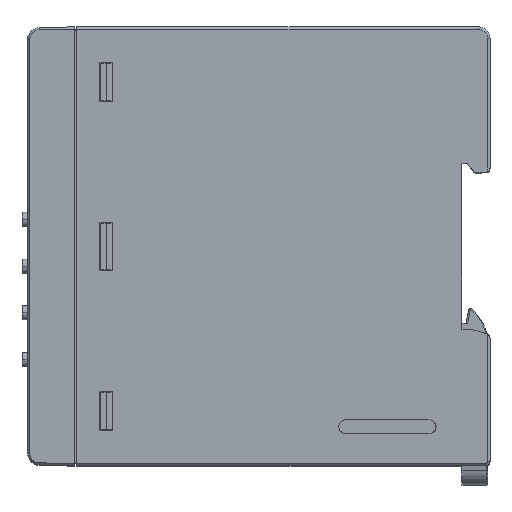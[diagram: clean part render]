
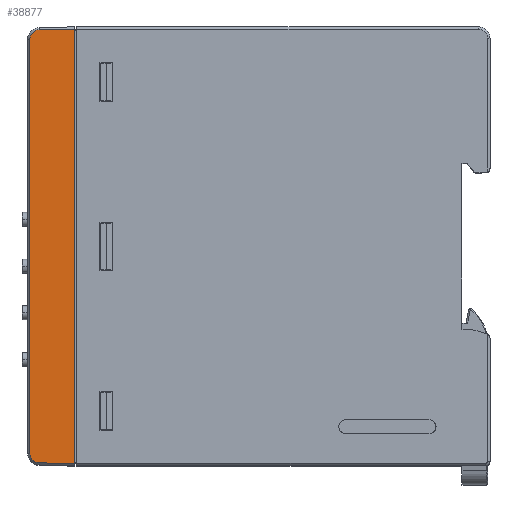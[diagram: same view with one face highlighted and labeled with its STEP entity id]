
A CAD part, top view. The second image highlights one B-rep face of the part: STEP entity #38877.
In plain terms, the highlighted planar face has unit normal (-0.018, 0, 1).
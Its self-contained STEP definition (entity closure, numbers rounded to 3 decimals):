
#25777=DIRECTION('',(1.,-0.017,0.017));
#25778=VECTOR('',#25777,7.546);
#25779=CARTESIAN_POINT('',(-46.064,-46.368,
15.068));
#25780=LINE('',#25779,#25778);
#25784=CARTESIAN_POINT('',(-48.029,-44.369,
15.034));
#25785=CARTESIAN_POINT('',(-48.029,-44.541,
15.034));
#25786=CARTESIAN_POINT('',(-47.984,-44.887,
15.035));
#25787=CARTESIAN_POINT('',(-47.786,-45.37,
15.038));
#25788=CARTESIAN_POINT('',(-47.471,-45.786,
15.044));
#25789=CARTESIAN_POINT('',(-47.06,-46.108,
15.051));
#25790=CARTESIAN_POINT('',(-46.58,-46.314,
15.059));
#25791=CARTESIAN_POINT('',(-46.236,-46.365,
15.065));
#25792=CARTESIAN_POINT('',(-46.064,-46.368,
15.068));
#25797=DIRECTION('',(0.,-1.,0.));
#25798=VECTOR('',#25797,88.737);
#25799=CARTESIAN_POINT('',(-48.029,44.369,
15.034));
#25800=LINE('',#25799,#25798);
#25804=CARTESIAN_POINT('',(-46.064,46.368,
15.068));
#25805=CARTESIAN_POINT('',(-46.236,46.365,
15.065));
#25806=CARTESIAN_POINT('',(-46.581,46.314,
15.059));
#25807=CARTESIAN_POINT('',(-47.061,46.108,
15.051));
#25808=CARTESIAN_POINT('',(-47.472,45.786,
15.044));
#25809=CARTESIAN_POINT('',(-47.786,45.369,
15.038));
#25810=CARTESIAN_POINT('',(-47.984,44.886,
15.035));
#25811=CARTESIAN_POINT('',(-48.029,44.541,
15.034));
#25812=CARTESIAN_POINT('',(-48.029,44.369,
15.034));
#25817=DIRECTION('',(-1.,-0.017,-0.017));
#25818=VECTOR('',#25817,7.546);
#25819=CARTESIAN_POINT('',(-38.52,46.5,15.2));
#25820=LINE('',#25819,#25818);
#25824=DIRECTION('',(0.,-1.,0.));
#25825=VECTOR('',#25824,93.);
#25826=CARTESIAN_POINT('',(-38.52,46.5,15.2));
#25827=LINE('',#25826,#25825);
#31245=CARTESIAN_POINT('',(-38.52,-46.5,15.2));
#31247=VERTEX_POINT('',#31245);
#31251=CARTESIAN_POINT('',(-46.064,-46.368,
15.068));
#31252=VERTEX_POINT('',#31251);
#31253=VERTEX_POINT('',#25784);
#31255=CARTESIAN_POINT('',(-48.029,44.369,
15.034));
#31256=VERTEX_POINT('',#31255);
#31259=VERTEX_POINT('',#25804);
#31262=CARTESIAN_POINT('',(-38.52,46.5,15.2));
#31264=VERTEX_POINT('',#31262);
#38861=CARTESIAN_POINT('',(-38.52,-48.7,15.2));
#38862=DIRECTION('',(-0.017,0.,1.));
#38863=DIRECTION('',(0.,-1.,0.));
#38864=AXIS2_PLACEMENT_3D('',#38861,#38862,#38863);
#38865=PLANE('',#38864);
#38866=ORIENTED_EDGE('',*,*,#38768,.F.);
#38868=ORIENTED_EDGE('',*,*,#38867,.F.);
#38870=ORIENTED_EDGE('',*,*,#38869,.F.);
#38872=ORIENTED_EDGE('',*,*,#38871,.F.);
#38873=ORIENTED_EDGE('',*,*,#38853,.F.);
#38874=ORIENTED_EDGE('',*,*,#38634,.T.);
#38875=EDGE_LOOP('',(#38866,#38868,#38870,#38872,#38873,#38874));
#38876=FACE_OUTER_BOUND('',#38875,.F.);
#38877=ADVANCED_FACE('',(#38876),#38865,.T.);
#25793=B_SPLINE_CURVE_WITH_KNOTS('',3,(#25784,#25785,#25786,#25787,#25788,
#25789,#25790,#25791,#25792),.UNSPECIFIED.,.F.,.F.,(4,1,1,1,1,1,4),(0.,
0.167,0.333,0.5,0.667,
0.833,1.),.UNSPECIFIED.);
#25813=B_SPLINE_CURVE_WITH_KNOTS('',3,(#25804,#25805,#25806,#25807,#25808,
#25809,#25810,#25811,#25812),.UNSPECIFIED.,.F.,.F.,(4,1,1,1,1,1,4),(0.,
0.167,0.333,0.5,0.667,
0.833,1.),.UNSPECIFIED.);
#38634=EDGE_CURVE('',#31264,#31247,#25827,.T.);
#38768=EDGE_CURVE('',#31252,#31247,#25780,.T.);
#38853=EDGE_CURVE('',#31264,#31259,#25820,.T.);
#38867=EDGE_CURVE('',#31253,#31252,#25793,.T.);
#38869=EDGE_CURVE('',#31256,#31253,#25800,.T.);
#38871=EDGE_CURVE('',#31259,#31256,#25813,.T.);
